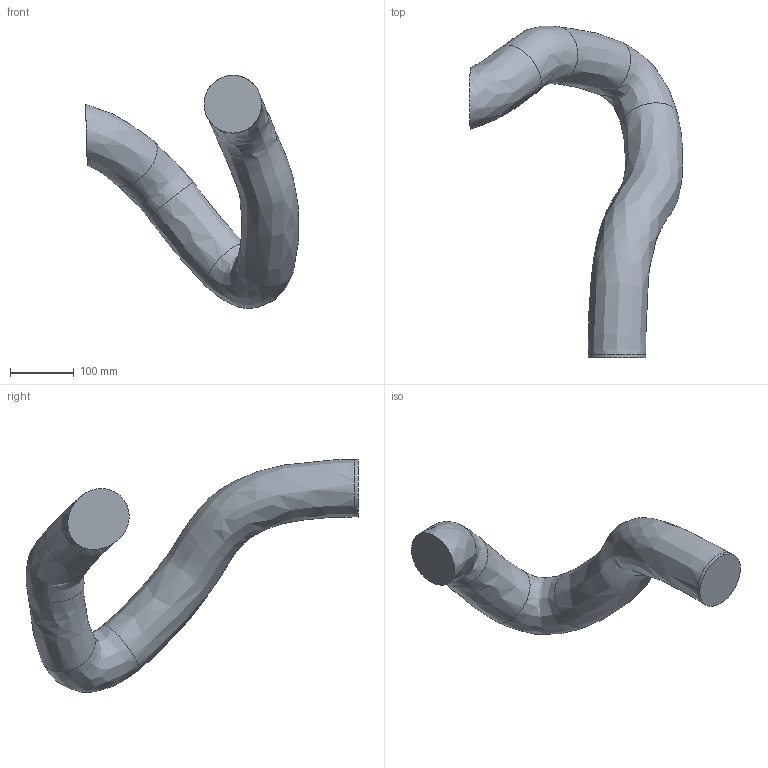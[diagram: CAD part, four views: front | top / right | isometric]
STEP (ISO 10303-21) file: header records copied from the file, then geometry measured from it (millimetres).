
FILE_DESCRIPTION (( 'STEP AP214' ), '1' );
FILE_NAME ('IRB6750S-LID_ALL-390-OC_00_LINK05_CABLE.step', '2026-05-13T05:28:55', ( '' ), ( '' ), 'SwSTEP 2.0', 'SolidWorks 2024', '' );
FILE_SCHEMA (( 'AUTOMOTIVE_DESIGN' ));
Length unit declared in the file: millimetre
Products named in the file (1): IRB6750S-LID_ALL-390-OC_00_LINK05_CABLE
Bounding box: 332.93 x 519.15 x 364.47 mm (x, y, z)
Volume: 5886303.8 mm3; surface area: 274956 mm2
Topology: 1 solids, 1 shells, 8 faces, 13 edges, 7 vertices
Faces by surface type: bspline 5, plane 2, cylinder 1
Full cylindrical faces by diameter (mm): 90 x1
Entity records: 1189 total; most frequent: CARTESIAN_POINT 990, FACE_OUTER_BOUND 14, ORIENTED_EDGE 14, EDGE_LOOP 14, DIRECTION 10, UNCERTAINTY_MEASURE_WITH_UNIT 10, COLOUR_RGB 9, MECHANICAL_DESIGN_GEOMETRIC_PRESENTATION_REPRESENTATION 9
